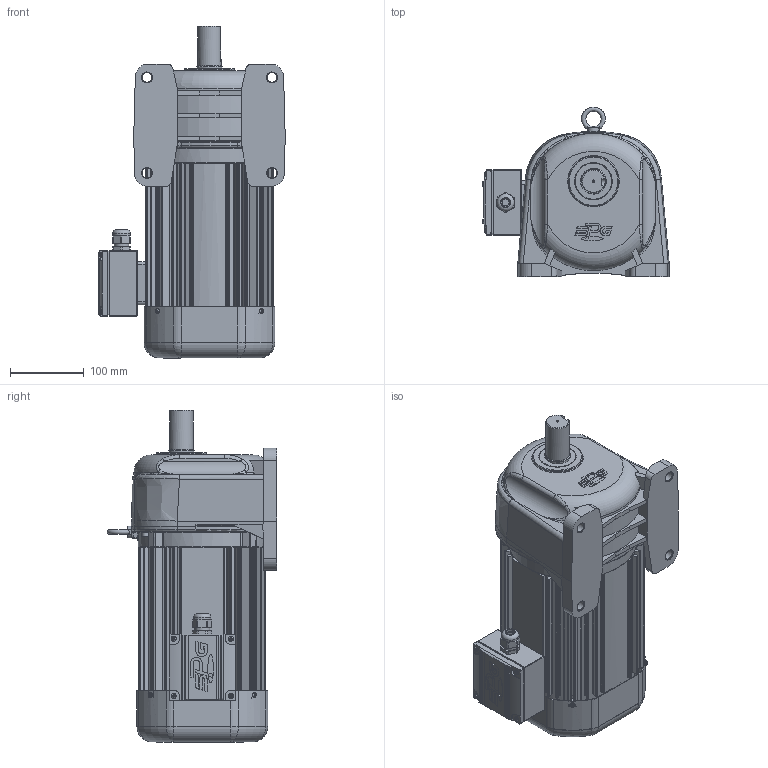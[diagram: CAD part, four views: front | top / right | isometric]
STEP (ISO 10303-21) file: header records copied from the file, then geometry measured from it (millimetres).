
FILE_DESCRIPTION(/* description */ (''),/* implementation_level */ '2;1');
FILE_NAME(/* name */ 'Z:\동력 3D 파일\PAL32-(5~25)-PA(B)150[ ]L_(3D).stp',/* time_stamp */ '2021-09-13T15:07:45+09:00',/* author */ ('jaebok'),/* organization */ (''),/* preprocessor_version */ 'ST-DEVELOPER v18.1',/* originating_system */ 'Autodesk Inventor 2022',/* authorisation */ '');
FILE_SCHEMA (('AUTOMOTIVE_DESIGN { 1 0 10303 214 3 1 1 }'));
Products named in the file (1): 부품2
Bounding box: 253.5 x 231.09 x 451.5 mm (x, y, z)
Volume: 3249127.6 mm3; surface area: 923261.2 mm2
Topology: 1 solids, 34 shells, 3196 faces, 8093 edges, 4829 vertices
Faces by surface type: plane 1004, cylinder 838, bspline 799, torus 269, cone 172, sphere 114
Full cylindrical faces by diameter (mm): 2 x2, 3.25 x1, 3.6 x4, 4 x22, 5 x27, 6 x9, 6.5 x4, 6.8 x1, 7 x13, 8 x3, 9.5 x4, 10 x5, 12.5 x1, 13 x4, 15 x1, 20 x2, 20.6 x1, 21 x1, 21.8 x1, 22 x2, 23.6 x1, 25 x1, 26 x1, 31.8 x2, 32 x2, 34.8 x1, 35 x3, 36 x1, 38 x1, 40 x1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
Entity records: 126685 total; most frequent: CARTESIAN_POINT 51898, ORIENTED_EDGE 15746, DIRECTION 13871, EDGE_CURVE 7873, AXIS2_PLACEMENT_3D 5596, VERTEX_POINT 4828, EDGE_LOOP 3413, FACE_OUTER_BOUND 3196
